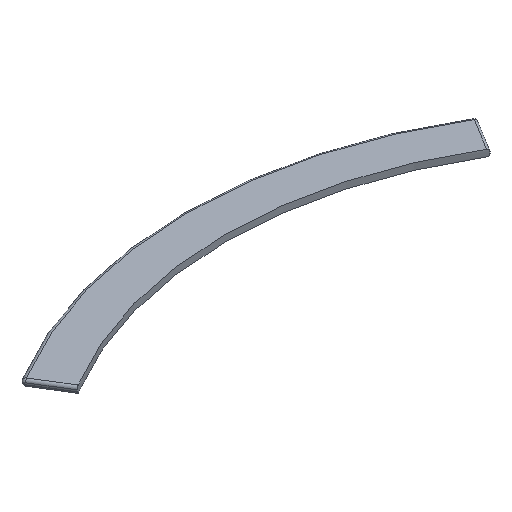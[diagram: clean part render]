
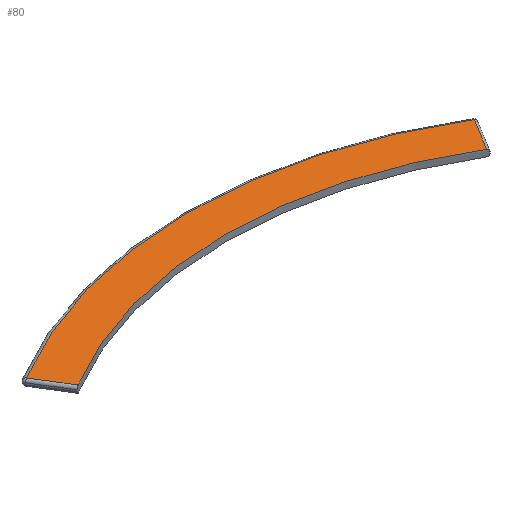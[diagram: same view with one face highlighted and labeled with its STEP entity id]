
A CAD part, isometric view. The second image highlights one B-rep face of the part: STEP entity #80.
In plain terms, the highlighted planar face has unit normal (0, 0, 1).
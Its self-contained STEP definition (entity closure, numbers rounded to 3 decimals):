
#80=ADVANCED_FACE('',(#182),#184,.T.);
#182=FACE_BOUND('',#183,.T.);
#183=EDGE_LOOP('',(#397,#398,#399,#400));
#184=PLANE('',#185);
#185=AXIS2_PLACEMENT_3D('',#186,#187,#188);
#186=CARTESIAN_POINT('',(0.,0.,0.4));
#187=DIRECTION('',(0.,0.,1.));
#188=DIRECTION('',(1.,0.,0.));
#397=ORIENTED_EDGE('',*,*,#447,.T.);
#398=ORIENTED_EDGE('',*,*,#448,.T.);
#399=ORIENTED_EDGE('',*,*,#449,.T.);
#400=ORIENTED_EDGE('',*,*,#438,.T.);
#438=EDGE_CURVE('',#470,#467,#471,.T.);
#447=EDGE_CURVE('',#467,#485,#486,.T.);
#448=EDGE_CURVE('',#485,#487,#488,.T.);
#449=EDGE_CURVE('',#487,#470,#489,.T.);
#467=VERTEX_POINT('',#572);
#470=VERTEX_POINT('',#619);
#471=CIRCLE('',#620,47.3);
#485=VERTEX_POINT('',#843);
#486=LINE('',#844,#845);
#487=VERTEX_POINT('',#847);
#488=CIRCLE('',#848,51.8);
#489=LINE('',#852,#853);
#572=CARTESIAN_POINT('',(24.497,40.462,0.4));
#619=CARTESIAN_POINT('',(-24.497,40.462,0.4));
#620=AXIS2_PLACEMENT_3D('',#621,#622,#623);
#621=CARTESIAN_POINT('',(0.,0.,0.4));
#622=DIRECTION('',(0.,0.,-1.));
#623=DIRECTION('',(-0.518,0.855,0.));
#843=CARTESIAN_POINT('',(26.852,44.297,0.4));
#844=CARTESIAN_POINT('',(24.497,40.462,0.4));
#845=VECTOR('',#846,1.);
#846=DIRECTION('',(0.523,0.852,0.));
#847=CARTESIAN_POINT('',(-26.852,44.297,0.4));
#848=AXIS2_PLACEMENT_3D('',#849,#850,#851);
#849=CARTESIAN_POINT('',(0.,0.,0.4));
#850=DIRECTION('',(0.,0.,1.));
#851=DIRECTION('',(0.518,0.855,0.));
#852=CARTESIAN_POINT('',(-26.852,44.297,0.4));
#853=VECTOR('',#854,1.);
#854=DIRECTION('',(0.523,-0.852,0.));
